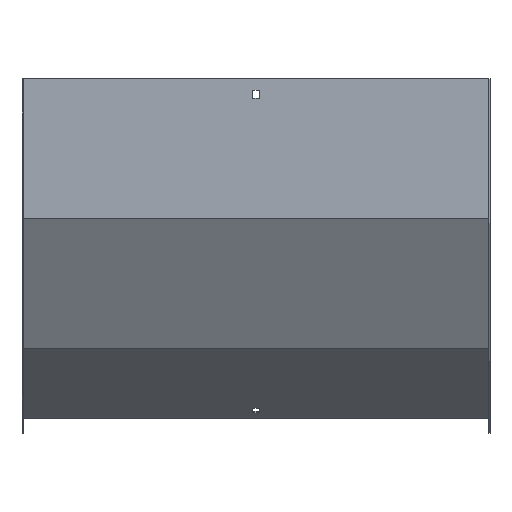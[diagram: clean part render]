
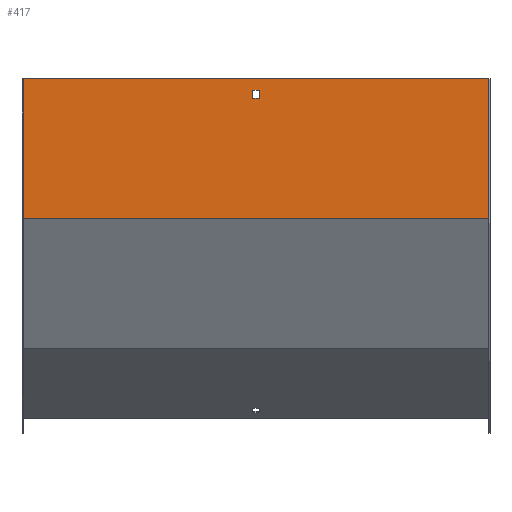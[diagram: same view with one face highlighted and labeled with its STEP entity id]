
A CAD part, front view. The second image highlights one B-rep face of the part: STEP entity #417.
In plain terms, the highlighted planar face has unit normal (0, -1, 0).
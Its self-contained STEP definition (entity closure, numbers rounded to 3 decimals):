
#25 = ORIENTED_EDGE ( 'NONE', *, *, #450, .F. ) ;
#29 = VERTEX_POINT ( 'NONE', #121 ) ;
#31 = CARTESIAN_POINT ( 'NONE',  ( 250., -1.5, -150.102 ) ) ;
#47 = CARTESIAN_POINT ( 'NONE',  ( 251.5, -1.5, -12. ) ) ;
#55 = DIRECTION ( 'NONE',  ( 1., 0., 0. ) ) ;
#58 = LINE ( 'NONE', #492, #773 ) ;
#66 = FACE_BOUND ( 'NONE', #712, .T. ) ;
#74 = CARTESIAN_POINT ( 'NONE',  ( 3.25, -1.5, -21. ) ) ;
#92 = AXIS2_PLACEMENT_3D ( 'NONE', #136, #770, #130 ) ;
#93 = VERTEX_POINT ( 'NONE', #846 ) ;
#108 = LINE ( 'NONE', #310, #655 ) ;
#110 = DIRECTION ( 'NONE',  ( 0., 0., -1. ) ) ;
#121 = CARTESIAN_POINT ( 'NONE',  ( -250., -1.5, -150.102 ) ) ;
#129 = CARTESIAN_POINT ( 'NONE',  ( 251.5, -1.5, 0. ) ) ;
#130 = DIRECTION ( 'NONE',  ( 0., 0., 1. ) ) ;
#136 = CARTESIAN_POINT ( 'NONE',  ( 251.5, -1.5, 0. ) ) ;
#172 = EDGE_CURVE ( 'NONE', #238, #93, #58, .T. ) ;
#173 = ORIENTED_EDGE ( 'NONE', *, *, #756, .F. ) ;
#188 = PLANE ( 'NONE',  #92 ) ;
#199 = DIRECTION ( 'NONE',  ( -1., 0., 0. ) ) ;
#213 = CARTESIAN_POINT ( 'NONE',  ( 251.5, -1.5, -150.102 ) ) ;
#238 = VERTEX_POINT ( 'NONE', #555 ) ;
#248 = FACE_OUTER_BOUND ( 'NONE', #338, .T. ) ;
#272 = CARTESIAN_POINT ( 'NONE',  ( 3.25, -1.5, 0. ) ) ;
#277 = ORIENTED_EDGE ( 'NONE', *, *, #365, .F. ) ;
#279 = CARTESIAN_POINT ( 'NONE',  ( -250., -1.5, 0. ) ) ;
#290 = EDGE_CURVE ( 'NONE', #517, #29, #108, .T. ) ;
#291 = VECTOR ( 'NONE', #708, 1000. ) ;
#310 = CARTESIAN_POINT ( 'NONE',  ( -250., -1.5, 0. ) ) ;
#336 = VECTOR ( 'NONE', #559, 1000. ) ;
#337 = VERTEX_POINT ( 'NONE', #31 ) ;
#338 = EDGE_LOOP ( 'NONE', ( #410, #396, #277, #771 ) ) ;
#339 = DIRECTION ( 'NONE',  ( -1., 0., 0. ) ) ;
#346 = VERTEX_POINT ( 'NONE', #830 ) ;
#359 = VECTOR ( 'NONE', #806, 1000. ) ;
#365 = EDGE_CURVE ( 'NONE', #346, #337, #368, .T. ) ;
#368 = LINE ( 'NONE', #503, #336 ) ;
#383 = LINE ( 'NONE', #47, #738 ) ;
#386 = LINE ( 'NONE', #646, #657 ) ;
#396 = ORIENTED_EDGE ( 'NONE', *, *, #506, .F. ) ;
#410 = ORIENTED_EDGE ( 'NONE', *, *, #290, .T. ) ;
#416 = VERTEX_POINT ( 'NONE', #768 ) ;
#417 = ADVANCED_FACE ( 'NONE', ( #248, #66 ), #188, .F. ) ;
#447 = VECTOR ( 'NONE', #339, 1000. ) ;
#450 = EDGE_CURVE ( 'NONE', #416, #238, #383, .T. ) ;
#457 = ORIENTED_EDGE ( 'NONE', *, *, #172, .F. ) ;
#482 = DIRECTION ( 'NONE',  ( 0., 0., -1. ) ) ;
#492 = CARTESIAN_POINT ( 'NONE',  ( -3.25, -1.5, 0. ) ) ;
#503 = CARTESIAN_POINT ( 'NONE',  ( 250., -1.5, 0. ) ) ;
#506 = EDGE_CURVE ( 'NONE', #337, #29, #601, .T. ) ;
#516 = LINE ( 'NONE', #272, #291 ) ;
#517 = VERTEX_POINT ( 'NONE', #279 ) ;
#555 = CARTESIAN_POINT ( 'NONE',  ( -3.25, -1.5, -12. ) ) ;
#559 = DIRECTION ( 'NONE',  ( 0., 0., -1. ) ) ;
#601 = LINE ( 'NONE', #213, #359 ) ;
#646 = CARTESIAN_POINT ( 'NONE',  ( 251.5, -1.5, -21. ) ) ;
#655 = VECTOR ( 'NONE', #110, 1000. ) ;
#657 = VECTOR ( 'NONE', #55, 1000. ) ;
#684 = EDGE_CURVE ( 'NONE', #93, #744, #386, .T. ) ;
#692 = ORIENTED_EDGE ( 'NONE', *, *, #684, .F. ) ;
#708 = DIRECTION ( 'NONE',  ( 0., 0., 1. ) ) ;
#712 = EDGE_LOOP ( 'NONE', ( #173, #692, #457, #25 ) ) ;
#730 = EDGE_CURVE ( 'NONE', #346, #517, #784, .T. ) ;
#738 = VECTOR ( 'NONE', #199, 1000. ) ;
#744 = VERTEX_POINT ( 'NONE', #74 ) ;
#756 = EDGE_CURVE ( 'NONE', #744, #416, #516, .T. ) ;
#768 = CARTESIAN_POINT ( 'NONE',  ( 3.25, -1.5, -12. ) ) ;
#770 = DIRECTION ( 'NONE',  ( 0., 1., 0. ) ) ;
#771 = ORIENTED_EDGE ( 'NONE', *, *, #730, .T. ) ;
#773 = VECTOR ( 'NONE', #482, 1000. ) ;
#784 = LINE ( 'NONE', #129, #447 ) ;
#806 = DIRECTION ( 'NONE',  ( -1., 0., 0. ) ) ;
#830 = CARTESIAN_POINT ( 'NONE',  ( 250., -1.5, 0. ) ) ;
#846 = CARTESIAN_POINT ( 'NONE',  ( -3.25, -1.5, -21. ) ) ;
